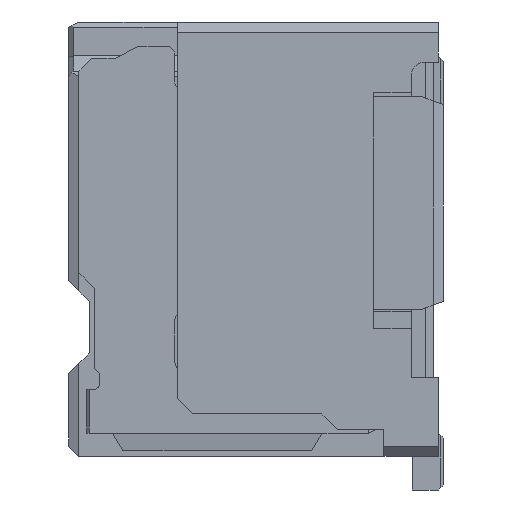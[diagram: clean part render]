
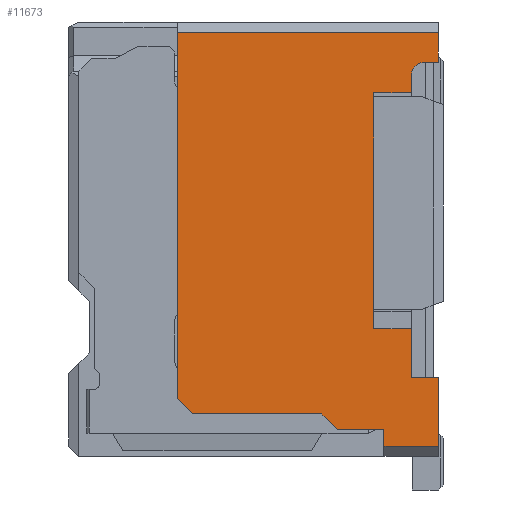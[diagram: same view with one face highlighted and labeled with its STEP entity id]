
A CAD part, left-side view. The second image highlights one B-rep face of the part: STEP entity #11673.
In plain terms, the highlighted planar face has unit normal (-1, 0, 0).
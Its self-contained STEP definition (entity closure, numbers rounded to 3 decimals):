
#89=DIRECTION('',(0.,1.,0.));
#90=VECTOR('',#89,5.05);
#91=CARTESIAN_POINT('',(-69.,-27.5,-491.22));
#92=LINE('',#91,#90);
#93=DIRECTION('',(0.,-1.,0.));
#94=VECTOR('',#93,0.27);
#95=CARTESIAN_POINT('',(-69.,-27.23,-491.8));
#96=LINE('',#95,#94);
#97=CARTESIAN_POINT('',(-69.,-27.23,-492.05));
#98=DIRECTION('',(1.,0.,0.));
#99=DIRECTION('',(0.,1.,0.));
#100=AXIS2_PLACEMENT_3D('',#97,#98,#99);
#102=DIRECTION('',(0.,0.,1.));
#103=VECTOR('',#102,4.56);
#104=CARTESIAN_POINT('',(-69.,-26.25,-496.95));
#105=LINE('',#104,#103);
#106=DIRECTION('',(0.,0.,1.));
#107=VECTOR('',#106,0.95);
#108=CARTESIAN_POINT('',(-69.,-26.98,-497.9));
#109=LINE('',#108,#107);
#110=DIRECTION('',(0.,1.,0.));
#111=VECTOR('',#110,0.52);
#112=CARTESIAN_POINT('',(-69.,-27.5,-497.9));
#113=LINE('',#112,#111);
#114=DIRECTION('',(0.,-1.,0.));
#115=VECTOR('',#114,1.05);
#116=CARTESIAN_POINT('',(-69.,-26.45,-499.22));
#117=LINE('',#116,#115);
#118=DIRECTION('',(0.,0.,-1.));
#119=VECTOR('',#118,0.32);
#120=CARTESIAN_POINT('',(-69.,-26.45,-498.9));
#121=LINE('',#120,#119);
#122=DIRECTION('',(0.,-0.707,-0.707));
#123=VECTOR('',#122,0.424);
#124=CARTESIAN_POINT('',(-69.,-25.25,-498.6));
#125=LINE('',#124,#123);
#126=DIRECTION('',(0.,-0.707,-0.707));
#127=VECTOR('',#126,0.424);
#128=CARTESIAN_POINT('',(-69.,-22.45,-498.3));
#129=LINE('',#128,#127);
#130=DIRECTION('',(0.,0.,-1.));
#131=VECTOR('',#130,7.08);
#132=CARTESIAN_POINT('',(-69.,-22.45,-491.22));
#133=LINE('',#132,#131);
#3802=DIRECTION('',(0.,0.,-1.));
#3803=VECTOR('',#3802,1.32);
#3804=CARTESIAN_POINT('',(-69.,-27.5,-497.9));
#3805=LINE('',#3804,#3803);
#4480=DIRECTION('',(0.,1.,0.));
#4481=VECTOR('',#4480,2.5);
#4482=CARTESIAN_POINT('',(-69.,-25.25,-498.6));
#4483=LINE('',#4482,#4481);
#4492=DIRECTION('',(0.,1.,0.));
#4493=VECTOR('',#4492,0.9);
#4494=CARTESIAN_POINT('',(-69.,-26.45,-498.9));
#4495=LINE('',#4494,#4493);
#4545=DIRECTION('',(0.,0.,-1.));
#4546=VECTOR('',#4545,0.34);
#4547=CARTESIAN_POINT('',(-69.,-26.98,-492.05));
#4548=LINE('',#4547,#4546);
#4573=DIRECTION('',(0.,-1.,0.));
#4574=VECTOR('',#4573,0.73);
#4575=CARTESIAN_POINT('',(-69.,-26.25,-496.95));
#4576=LINE('',#4575,#4574);
#4589=DIRECTION('',(0.,1.,0.));
#4590=VECTOR('',#4589,0.73);
#4591=CARTESIAN_POINT('',(-69.,-26.98,-492.39));
#4592=LINE('',#4591,#4590);
#4721=DIRECTION('',(0.,0.,-1.));
#4722=VECTOR('',#4721,0.58);
#4723=CARTESIAN_POINT('',(-69.,-27.5,-491.22));
#4724=LINE('',#4723,#4722);
#8726=CARTESIAN_POINT('',(-69.,-22.45,-498.3));
#8728=VERTEX_POINT('',#8726);
#8729=CARTESIAN_POINT('',(-69.,-22.45,-491.22));
#8730=VERTEX_POINT('',#8729);
#8823=CARTESIAN_POINT('',(-69.,-27.5,-491.22));
#8824=VERTEX_POINT('',#8823);
#8825=CARTESIAN_POINT('',(-69.,-22.75,-498.6));
#8826=VERTEX_POINT('',#8825);
#8827=CARTESIAN_POINT('',(-69.,-25.25,-498.6));
#8828=VERTEX_POINT('',#8827);
#8829=CARTESIAN_POINT('',(-69.,-25.55,
-498.9));
#8830=VERTEX_POINT('',#8829);
#8831=CARTESIAN_POINT('',(-69.,-26.45,-498.9));
#8832=VERTEX_POINT('',#8831);
#8833=CARTESIAN_POINT('',(-69.,-26.45,-499.22));
#8834=VERTEX_POINT('',#8833);
#8835=CARTESIAN_POINT('',(-69.,-27.5,-499.22));
#8836=VERTEX_POINT('',#8835);
#8837=CARTESIAN_POINT('',(-69.,-27.5,-497.9));
#8838=VERTEX_POINT('',#8837);
#8839=CARTESIAN_POINT('',(-69.,-26.98,-497.9));
#8840=VERTEX_POINT('',#8839);
#8841=CARTESIAN_POINT('',(-69.,-26.98,-496.95));
#8842=VERTEX_POINT('',#8841);
#8843=CARTESIAN_POINT('',(-69.,-26.25,-496.95));
#8844=VERTEX_POINT('',#8843);
#8845=CARTESIAN_POINT('',(-69.,-26.25,-492.39));
#8846=VERTEX_POINT('',#8845);
#8847=CARTESIAN_POINT('',(-69.,-26.98,-492.39));
#8848=VERTEX_POINT('',#8847);
#8849=CARTESIAN_POINT('',(-69.,-26.98,-492.05));
#8850=VERTEX_POINT('',#8849);
#8851=CARTESIAN_POINT('',(-69.,-27.23,-491.8));
#8852=VERTEX_POINT('',#8851);
#8853=CARTESIAN_POINT('',(-69.,-27.5,-491.8));
#8854=VERTEX_POINT('',#8853);
#11632=CARTESIAN_POINT('',(-69.,-24.55,-491.17));
#11633=DIRECTION('',(-1.,0.,0.));
#11634=DIRECTION('',(0.,0.,-1.));
#11635=AXIS2_PLACEMENT_3D('',#11632,#11633,#11634);
#11636=PLANE('',#11635);
#11638=ORIENTED_EDGE('',*,*,#11637,.F.);
#11640=ORIENTED_EDGE('',*,*,#11639,.T.);
#11642=ORIENTED_EDGE('',*,*,#11641,.F.);
#11644=ORIENTED_EDGE('',*,*,#11643,.F.);
#11646=ORIENTED_EDGE('',*,*,#11645,.T.);
#11648=ORIENTED_EDGE('',*,*,#11647,.T.);
#11650=ORIENTED_EDGE('',*,*,#11649,.F.);
#11652=ORIENTED_EDGE('',*,*,#11651,.T.);
#11654=ORIENTED_EDGE('',*,*,#11653,.F.);
#11656=ORIENTED_EDGE('',*,*,#11655,.F.);
#11658=ORIENTED_EDGE('',*,*,#11657,.T.);
#11660=ORIENTED_EDGE('',*,*,#11659,.F.);
#11662=ORIENTED_EDGE('',*,*,#11661,.F.);
#11664=ORIENTED_EDGE('',*,*,#11663,.T.);
#11666=ORIENTED_EDGE('',*,*,#11665,.F.);
#11668=ORIENTED_EDGE('',*,*,#11667,.T.);
#11669=ORIENTED_EDGE('',*,*,#11623,.F.);
#11670=ORIENTED_EDGE('',*,*,#11612,.F.);
#11671=EDGE_LOOP('',(#11638,#11640,#11642,#11644,#11646,#11648,#11650,#11652,
#11654,#11656,#11658,#11660,#11662,#11664,#11666,#11668,#11669,#11670));
#11672=FACE_OUTER_BOUND('',#11671,.F.);
#11673=ADVANCED_FACE('',(#11672),#11636,.T.);
#101=CIRCLE('',#100,0.25);
#11612=EDGE_CURVE('',#8730,#8728,#133,.T.);
#11623=EDGE_CURVE('',#8728,#8826,#129,.T.);
#11637=EDGE_CURVE('',#8824,#8730,#92,.T.);
#11639=EDGE_CURVE('',#8824,#8854,#4724,.T.);
#11641=EDGE_CURVE('',#8852,#8854,#96,.T.);
#11643=EDGE_CURVE('',#8850,#8852,#101,.T.);
#11645=EDGE_CURVE('',#8850,#8848,#4548,.T.);
#11647=EDGE_CURVE('',#8848,#8846,#4592,.T.);
#11649=EDGE_CURVE('',#8844,#8846,#105,.T.);
#11651=EDGE_CURVE('',#8844,#8842,#4576,.T.);
#11653=EDGE_CURVE('',#8840,#8842,#109,.T.);
#11655=EDGE_CURVE('',#8838,#8840,#113,.T.);
#11657=EDGE_CURVE('',#8838,#8836,#3805,.T.);
#11659=EDGE_CURVE('',#8834,#8836,#117,.T.);
#11661=EDGE_CURVE('',#8832,#8834,#121,.T.);
#11663=EDGE_CURVE('',#8832,#8830,#4495,.T.);
#11665=EDGE_CURVE('',#8828,#8830,#125,.T.);
#11667=EDGE_CURVE('',#8828,#8826,#4483,.T.);
